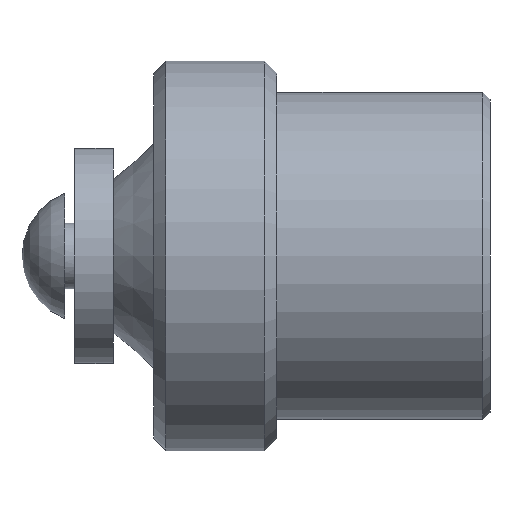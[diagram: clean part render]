
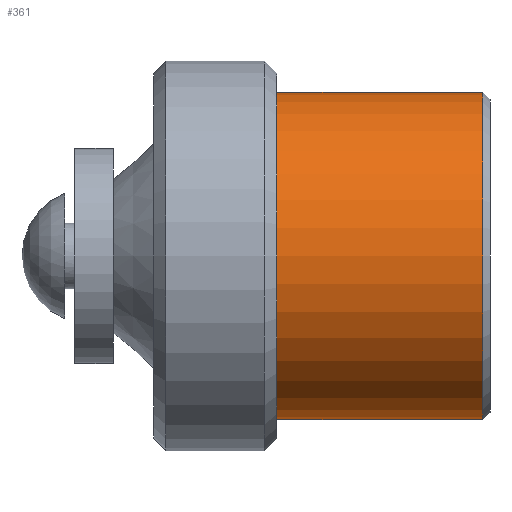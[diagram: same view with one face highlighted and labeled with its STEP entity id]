
A CAD part, left-side view. The second image highlights one B-rep face of the part: STEP entity #361.
In plain terms, the highlighted cylindrical face has radius 6.758 mm (diameter 13.516 mm), a full revolution.
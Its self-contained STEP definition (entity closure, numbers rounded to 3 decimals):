
#9 = AXIS2_PLACEMENT_3D ( 'NONE', #248, #160, #139 ) ;
#11 = DIRECTION ( 'NONE',  ( 1., 0., 0. ) ) ;
#26 = EDGE_CURVE ( 'NONE', #400, #400, #1098, .T. ) ;
#74 = EDGE_LOOP ( 'NONE', ( #375 ) ) ;
#118 = DIRECTION ( 'NONE',  ( 0., 1., 0. ) ) ;
#119 = CIRCLE ( 'NONE', #467, 6.758 ) ;
#139 = DIRECTION ( 'NONE',  ( 1., 0., 0. ) ) ;
#160 = DIRECTION ( 'NONE',  ( 0., 1., 0. ) ) ;
#248 = CARTESIAN_POINT ( 'NONE',  ( -26.5, 22.174, 3.625 ) ) ;
#280 = FACE_OUTER_BOUND ( 'NONE', #74, .T. ) ;
#357 = CARTESIAN_POINT ( 'NONE',  ( -19.742, 13.667, 3.625 ) ) ;
#361 = ADVANCED_FACE ( 'NONE', ( #547, #280 ), #767, .T. ) ;
#375 = ORIENTED_EDGE ( 'NONE', *, *, #412, .T. ) ;
#400 = VERTEX_POINT ( 'NONE', #1235 ) ;
#412 = EDGE_CURVE ( 'NONE', #843, #843, #119, .T. ) ;
#467 = AXIS2_PLACEMENT_3D ( 'NONE', #703, #118, #11 ) ;
#500 = CARTESIAN_POINT ( 'NONE',  ( -26.5, 17.921, 3.625 ) ) ;
#547 = FACE_OUTER_BOUND ( 'NONE', #1068, .T. ) ;
#595 = DIRECTION ( 'NONE',  ( 0., 1., 0. ) ) ;
#597 = DIRECTION ( 'NONE',  ( 1., 0., 0. ) ) ;
#686 = ORIENTED_EDGE ( 'NONE', *, *, #26, .F. ) ;
#703 = CARTESIAN_POINT ( 'NONE',  ( -26.5, 13.667, 3.625 ) ) ;
#767 = CYLINDRICAL_SURFACE ( 'NONE', #936, 6.758 ) ;
#843 = VERTEX_POINT ( 'NONE', #357 ) ;
#936 = AXIS2_PLACEMENT_3D ( 'NONE', #500, #595, #597 ) ;
#1068 = EDGE_LOOP ( 'NONE', ( #686 ) ) ;
#1098 = CIRCLE ( 'NONE', #9, 6.758 ) ;
#1235 = CARTESIAN_POINT ( 'NONE',  ( -19.742, 22.174, 3.625 ) ) ;
